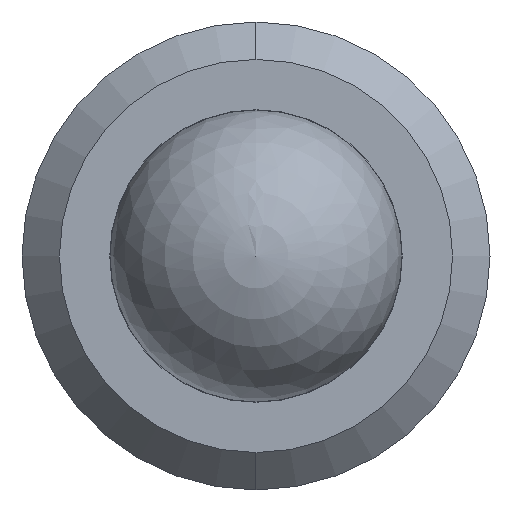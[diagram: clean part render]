
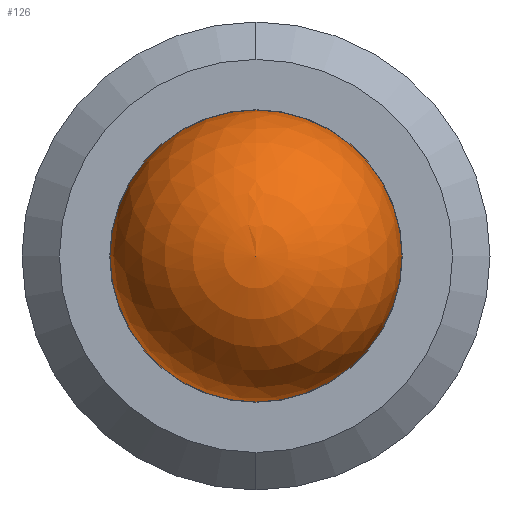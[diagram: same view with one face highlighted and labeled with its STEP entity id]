
A CAD part, left-side view. The second image highlights one B-rep face of the part: STEP entity #126.
In plain terms, the highlighted spherical face has radius 1.984 mm.
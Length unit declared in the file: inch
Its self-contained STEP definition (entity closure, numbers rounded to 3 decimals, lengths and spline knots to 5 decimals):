
#2 = EDGE_LOOP ( 'NONE', ( #541, #278 ) ) ;
#27 = EDGE_CURVE ( 'NONE', #236, #215, #216, .T. ) ;
#71 = DIRECTION ( 'NONE',  ( -1., 0., 0. ) ) ;
#103 = EDGE_CURVE ( 'NONE', #236, #215, #204, .T. ) ;
#120 = DIRECTION ( 'NONE',  ( 0., 0., 1. ) ) ;
#126 = ADVANCED_FACE ( 'NONE', ( #270 ), #407, .T. ) ;
#138 = CARTESIAN_POINT ( 'NONE',  ( 0., 0., 0. ) ) ;
#182 = DIRECTION ( 'NONE',  ( 0., 0., 1. ) ) ;
#204 = CIRCLE ( 'NONE', #442, 0.07813 ) ;
#210 = DIRECTION ( 'NONE',  ( 1., 0., 0. ) ) ;
#215 = VERTEX_POINT ( 'NONE', #319 ) ;
#216 = CIRCLE ( 'NONE', #218, 0.07813 ) ;
#218 = AXIS2_PLACEMENT_3D ( 'NONE', #138, #488, #182 ) ;
#229 = CARTESIAN_POINT ( 'NONE',  ( 0., 0.07813, 0. ) ) ;
#236 = VERTEX_POINT ( 'NONE', #229 ) ;
#270 = FACE_OUTER_BOUND ( 'NONE', #2, .T. ) ;
#278 = ORIENTED_EDGE ( 'NONE', *, *, #27, .T. ) ;
#319 = CARTESIAN_POINT ( 'NONE',  ( 0., -0.07813, 0. ) ) ;
#349 = AXIS2_PLACEMENT_3D ( 'NONE', #360, #71, #120 ) ;
#360 = CARTESIAN_POINT ( 'NONE',  ( 0., 0., 0. ) ) ;
#407 = SPHERICAL_SURFACE ( 'NONE', #349, 0.07813 ) ;
#442 = AXIS2_PLACEMENT_3D ( 'NONE', #521, #210, #567 ) ;
#488 = DIRECTION ( 'NONE',  ( -1., 0., 0. ) ) ;
#521 = CARTESIAN_POINT ( 'NONE',  ( 0., 0., 0. ) ) ;
#541 = ORIENTED_EDGE ( 'NONE', *, *, #103, .F. ) ;
#567 = DIRECTION ( 'NONE',  ( 0., 0., -1. ) ) ;
